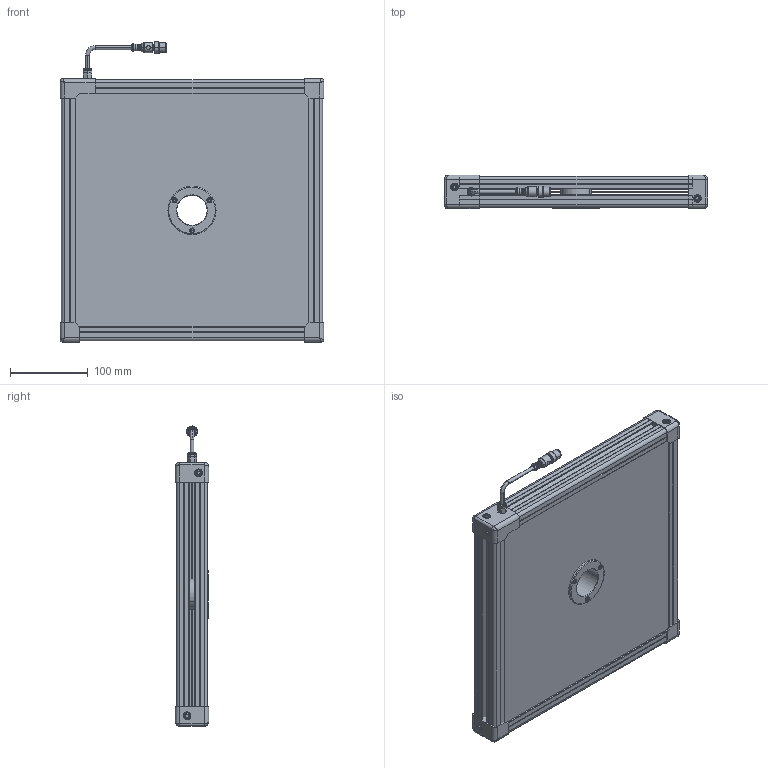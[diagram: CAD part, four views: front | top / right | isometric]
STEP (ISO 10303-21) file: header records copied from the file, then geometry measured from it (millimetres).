
FILE_DESCRIPTION (( 'STEP AP214' ), '1' );
FILE_NAME ('BLC300x300.STEP', '2014-10-28T08:49:21', ( 'Effilux' ), ( '' ), 'SwSTEP 2.0', 'SolidWorks 2010', '' );
FILE_SCHEMA (( 'AUTOMOTIVE_DESIGN' ));
Length unit declared in the file: millimetre
Products named in the file (1): BLC300x300
Bounding box: 339.5 x 43.2 x 386.75 mm (x, y, z)
Surface area: 318742.6 mm2 (no closed solid volume)
Topology: 0 solids, 38 shells, 523 faces, 1617 edges, 1100 vertices
Faces by surface type: plane 262, cylinder 151, bspline 72, cone 28, torus 10
Entity records: 24290 total; most frequent: CARTESIAN_POINT 4805, DIRECTION 2863, ORIENTED_EDGE 2565, EDGE_CURVE 1609, VERTEX_POINT 1100, LINE 999, VECTOR 999, AXIS2_PLACEMENT_3D 932
